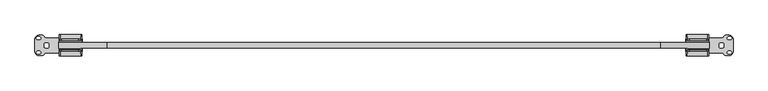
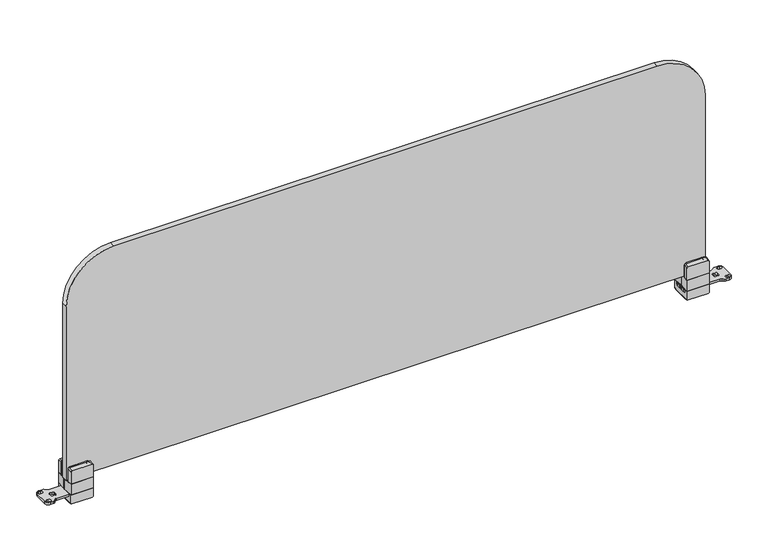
"""IFC4 building model written with IfcOpenShell, lengths in millimetres: furniture geometry, Logos Echopanel Screen : Logos Echopanel Screen."""

from ifc_helpers import new_model, si_unit, point, frame, frame_2d, origin, place, context, project, spatial, polyline, circle_curve, ellipse_curve, trimmed, segment, composite_curve, outline, extrude, faceted_brep, source, transform, mapped, element, save
from ifc_brep_helpers import plane_surface, cylinder_surface, spline_surface, advanced_brep


def furniture_cf596cc2(model_context):
    return source(origin(), model_context, "Body", "SolidModel", [
        extrude(outline(composite_curve([segment(trimmed(circle_curve(frame_2d((694.9412598, 20.2504168)), 5.0007663), [point((694.9412598, 15.2496506))], [point((698.4773355, 16.7143411))], True, "CARTESIAN"), True, "CONTINUOUS"), segment(polyline([(698.4773355, 16.7143411), (701.3432341, 19.5802397)]), True, "CONTINUOUS"), segment(trimmed(circle_curve(frame_2d((704.8336792, 15.9991147)), 5.0007663), [point((701.3432341, 19.5802397))], [point((704.8336792, 20.999881))], False, "CARTESIAN"), True, "CONTINUOUS"), segment(polyline([(704.8336792, 20.999881), (711.3379333, 20.999881)]), True, "CONTINUOUS"), segment(trimmed(circle_curve(frame_2d((711.3379333, 13.0747833)), 7.9250977), [point((711.3379333, 20.999881))], [point((719.263031, 13.0747833))], False, "CARTESIAN"), True, "CONTINUOUS"), segment(polyline([(719.263031, 13.0747833), (719.263031, -13.0747833)]), True, "CONTINUOUS"), segment(trimmed(circle_curve(frame_2d((711.3379333, -13.0747833)), 7.9250977), [point((719.263031, -13.0747833))], [point((711.3379333, -20.999881))], False, "CARTESIAN"), True, "CONTINUOUS"), segment(polyline([(711.3379333, -20.999881), (704.8336792, -20.999881)]), True, "CONTINUOUS"), segment(trimmed(circle_curve(frame_2d((704.8336792, -15.9991147)), 5.0007663), [point((704.8336792, -20.999881))], [point((701.3432341, -19.5802397))], False, "CARTESIAN"), True, "CONTINUOUS"), segment(polyline([(701.3432341, -19.5802397), (698.4773355, -16.7143411)]), True, "CONTINUOUS"), segment(trimmed(circle_curve(frame_2d((694.9412598, -20.2504168)), 5.0007663), [point((698.4773355, -16.7143411))], [point((694.9412598, -15.2496506))], True, "CARTESIAN"), True, "CONTINUOUS"), segment(polyline([(694.9412598, -15.2496506), (626.2631989, -15.2496506)]), True, "CONTINUOUS"), segment(trimmed(circle_curve(frame_2d((626.2631989, -10.2496506)), 5.0), [point((626.2631989, -15.2496506))], [point((621.2631989, -10.2496506))], False, "CARTESIAN"), True, "CONTINUOUS"), segment(polyline([(621.2631989, -10.2496506), (621.2631989, -3.5516082)]), True, "CONTINUOUS"), segment(trimmed(circle_curve(frame_2d((623.2649016, -3.5516082)), 2.0017028), [point((621.2631989, -3.5516082))], [point((623.2649016, -1.5499054))], False, "CARTESIAN"), True, "CONTINUOUS"), segment(polyline([(623.2649016, -1.5499054), (669.2625946, -1.5499054), (669.2625946, 1.5499054), (623.2649016, 1.5499054)]), True, "CONTINUOUS"), segment(trimmed(circle_curve(frame_2d((623.2649016, 3.5516082)), 2.0017028), [point((623.2649016, 1.5499054))], [point((621.2631989, 3.5516082))], False, "CARTESIAN"), True, "CONTINUOUS"), segment(polyline([(621.2631989, 3.5516082), (621.2631989, 10.2496506)]), True, "CONTINUOUS"), segment(trimmed(circle_curve(frame_2d((626.2631989, 10.2496506)), 5.0), [point((621.2631989, 10.2496506))], [point((626.2631989, 15.2496506))], False, "CARTESIAN"), True, "CONTINUOUS"), segment(polyline([(626.2631989, 15.2496506), (694.9412598, 15.2496506)]), True, "CONTINUOUS")], self_intersect=False), holes=[composite_curve([segment(trimmed(circle_curve(frame_2d((710.5124023, 14.9999565)), 3.2500923), [point((710.5124023, 18.2500488))], [point((710.5124023, 11.7498642))], True, "CARTESIAN"), True, "CONTINUOUS"), segment(polyline([(710.5124023, 11.7498642), (713.5122192, 11.7498642)]), True, "CONTINUOUS"), segment(trimmed(circle_curve(frame_2d((713.5122192, 14.9999565)), 3.2500923), [point((713.5122192, 11.7498642))], [point((713.5122192, 18.2500488))], True, "CARTESIAN"), True, "CONTINUOUS"), segment(polyline([(713.5122192, 18.2500488), (710.5124023, 18.2500488)]), True, "CONTINUOUS")], self_intersect=False), composite_curve([segment(polyline([(710.5124023, -18.2500488), (713.5122192, -18.2500488)]), True, "CONTINUOUS"), segment(trimmed(circle_curve(frame_2d((713.5122192, -14.9999565)), 3.2500923), [point((713.5122192, -18.2500488))], [point((713.5122192, -11.7498642))], True, "CARTESIAN"), True, "CONTINUOUS"), segment(polyline([(713.5122192, -11.7498642), (710.5124023, -11.7498642)]), True, "CONTINUOUS"), segment(trimmed(circle_curve(frame_2d((710.5124023, -14.9999565)), 3.2500923), [point((710.5124023, -11.7498642))], [point((710.5124023, -18.2500488))], True, "CARTESIAN"), True, "CONTINUOUS")], self_intersect=False), composite_curve([segment(polyline([(697.763028, 4.9996948), (692.7800292, 4.9996948)]), True, "CONTINUOUS"), segment(trimmed(circle_curve(frame_2d((692.7800292, 2.4821412)), 2.5175537), [point((692.7800292, 4.9996948))], [point((690.2624756, 2.4821412))], True, "CARTESIAN"), True, "CONTINUOUS"), segment(polyline([(690.2624756, 2.4821412), (690.2624756, -2.4821412)]), True, "CONTINUOUS"), segment(trimmed(circle_curve(frame_2d((692.7800292, -2.4821412)), 2.5175537), [point((690.2624756, -2.4821412))], [point((692.7800292, -4.9996948))], True, "CARTESIAN"), True, "CONTINUOUS"), segment(polyline([(692.7800292, -4.9996948), (697.763028, -4.9996948)]), True, "CONTINUOUS"), segment(trimmed(circle_curve(frame_2d((697.763028, -2.4996948)), 2.5), [point((697.763028, -4.9996948))], [point((700.263028, -2.4996948))], True, "CARTESIAN"), True, "CONTINUOUS"), segment(polyline([(700.263028, -2.4996948), (700.263028, 2.4996948)]), True, "CONTINUOUS"), segment(trimmed(circle_curve(frame_2d((697.763028, 2.4996948)), 2.5), [point((700.263028, 2.4996948))], [point((697.763028, 4.9996948))], True, "CARTESIAN"), True, "CONTINUOUS")], self_intersect=False)]), frame((0.0, 0.0, 15.0000292), z_axis=(0.0, 0.0, 1.0), x_axis=(1.0, 0.0, 0.0)), (0.0, 0.0, 1.0), 4.9999855),
        extrude(outline(composite_curve([segment(polyline([(68.5024686, 627.7267578), (45.4999844, 627.7267578), (45.4999844, 644.0269257), (72.5000078, 644.0269257), (72.5000078, 631.724297)]), True, "CONTINUOUS"), segment(trimmed(circle_curve(frame_2d((68.5024686, 631.724297)), 3.9975392), [point((72.5000078, 631.724297))], [point((68.5024686, 627.7267578))], False, "CARTESIAN"), True, "CONTINUOUS")], self_intersect=False)), frame((0.0, -9.7499863, 0.0), z_axis=(0.0, 1.0, 0.0), x_axis=(0.0, 0.0, 1.0)), (0.0, 0.0, 1.0), 6.0002151),
        extrude(outline(composite_curve([segment(polyline([(45.4999844, 648.3272446), (45.4999844, 664.6268311), (68.4931361, 664.6268311)]), True, "CONTINUOUS"), segment(trimmed(circle_curve(frame_2d((68.4931361, 660.6199594)), 4.0068717), [point((68.4931361, 664.6268311))], [point((72.5000078, 660.6199594))], False, "CARTESIAN"), True, "CONTINUOUS"), segment(polyline([(72.5000078, 660.6199594), (72.5000078, 648.3272446), (45.4999844, 648.3272446)]), True, "CONTINUOUS")], self_intersect=False)), frame((0.0, -9.7499863, 0.0), z_axis=(0.0, 1.0, 0.0), x_axis=(0.0, 0.0, 1.0)), (0.0, 0.0, 1.0), 6.0002151),
        extrude(outline(composite_curve([segment(polyline([(71.4999962, 624.4269592), (45.4999844, 624.4269592), (45.4999844, 667.927211), (71.4999962, 667.927211)]), True, "CONTINUOUS"), segment(trimmed(circle_curve(frame_2d((71.4999962, 663.9272371)), 3.9999739), [point((71.4999962, 667.927211))], [point((75.4999701, 663.9272371))], False, "CARTESIAN"), True, "CONTINUOUS"), segment(polyline([(75.4999701, 663.9272371), (75.4999701, 628.4269331)]), True, "CONTINUOUS"), segment(trimmed(circle_curve(frame_2d((71.4999962, 628.4269331)), 3.9999739), [point((75.4999701, 628.4269331))], [point((71.4999962, 624.4269592))], False, "CARTESIAN"), True, "CONTINUOUS")], self_intersect=False)), frame((0.0, 9.7499863, 0.0), z_axis=(0.0, 1.0, 0.0), x_axis=(0.0, 0.0, 1.0)), (0.0, 0.0, 1.0), 2.9998169),
        faceted_brep([(622.2501428, -22.0004013, 45.4999844), (668.7502114, -22.0004013, 45.4999844), (669.4270769, -12.7503845, 45.4999844), (622.9270082, -12.7503845, 45.4999844), (623.7502563, -1.4999084, 44.4999727), (670.250325, -1.4999084, 44.4999727), (670.250325, -1.4999084, 22.4999511), (623.7502563, -1.4999084, 22.4999511), (622.2501428, -22.0004013, 21.7407766), (622.9270082, -12.7503845, 45.0000149), (668.7502114, -22.0004013, 21.7407766), (669.4270769, -12.7503845, 45.0000149)], [[[0, 1, 2, 3]], [[4, 5, 6, 7]], [[8, 0, 3, 9, 4, 7]], [[1, 0, 8, 10]], [[1, 10, 6, 5, 11, 2]], [[9, 11, 5, 4]], [[11, 9, 3, 2]], [[7, 6, 10, 8]]]),
        faceted_brep([(668.7502889, 22.0004013, 45.4999844), (622.2502203, 22.0004013, 45.4999844), (622.9270508, 12.7503845, 45.4999844), (669.4271194, 12.7503845, 45.4999844), (668.7502889, 22.0004013, 21.7407766), (669.4271194, 12.7503845, 45.0000149), (670.250325, 1.4999084, 44.4999727), (670.250325, 1.4999084, 22.4999511), (622.2502203, 22.0004013, 21.7407766), (623.7502563, 1.4999084, 22.4999511), (623.7502563, 1.4999084, 44.4999727), (622.9270508, 12.7503845, 45.0000149)], [[[0, 1, 2, 3]], [[4, 0, 3, 5, 6, 7]], [[1, 0, 4, 8]], [[1, 8, 9, 10, 11, 2]], [[6, 10, 9, 7]], [[11, 5, 3, 2]], [[5, 11, 10, 6]], [[4, 7, 9, 8]]]),
        extrude(outline(composite_curve([segment(polyline([(71.4999962, 624.4269592), (45.4999844, 624.4269592), (45.4999844, 667.927211), (71.4999962, 667.927211)]), True, "CONTINUOUS"), segment(trimmed(circle_curve(frame_2d((71.4999962, 663.9272371)), 3.9999739), [point((71.4999962, 667.927211))], [point((75.4999701, 663.9272371))], False, "CARTESIAN"), True, "CONTINUOUS"), segment(polyline([(75.4999701, 663.9272371), (75.4999701, 628.4269331)]), True, "CONTINUOUS"), segment(trimmed(circle_curve(frame_2d((71.4999962, 628.4269331)), 3.9999739), [point((75.4999701, 628.4269331))], [point((71.4999962, 624.4269592))], False, "CARTESIAN"), True, "CONTINUOUS")], self_intersect=False)), frame((0.0, -12.7498032, 0.0), z_axis=(0.0, 1.0, 0.0), x_axis=(0.0, 0.0, 1.0)), (0.0, 0.0, 1.0), 2.9998169),
        advanced_brep(
        [(666.8031057, -22.0004013, 74.5681955), (624.2886119, -22.0004013, 74.5681955), (622.2886119, -22.0004013, 72.5681955), (622.2886119, -22.0004013, 45.4999844), (668.7835357, -22.0004013, 45.4999844), (668.7835357, -22.0004013, 72.5877655), (667.4434949, -12.7503845, 76.0000182), (669.4271194, -12.7503845, 74.0163937), (669.4271194, -12.7503845, 45.4999844), (622.9270508, -12.7503845, 45.4999844), (622.9270508, -12.7503845, 74.0287389), (624.8983301, -12.7503845, 76.0000182)],
        [
            (0, 1),
            (1, 2, circle_curve(frame((624.2886119, -22.0004013, 72.5681955), z_axis=(0.0, -1.0, 0.0), x_axis=(0.0, 0.0, -1.0)), 2.0)),
            (2, 3),
            (3, 4),
            (4, 5),
            (5, 0, circle_curve(frame((666.8031057, -22.0004013, 72.5877655), z_axis=(0.0, -1.0, 0.0), x_axis=(0.0, 0.0, -1.0)), 1.98043)),
            (6, 7, circle_curve(frame((667.4434949, -12.7503845, 74.0163937), z_axis=(0.0, 1.0, 0.0), x_axis=(0.0, 0.0, -1.0)), 1.9836245)),
            (7, 8),
            (8, 9),
            (9, 10),
            (10, 11, circle_curve(frame((624.8983301, -12.7503845, 74.0287389), z_axis=(0.0, 1.0, 0.0), x_axis=(0.0, 0.0, -1.0)), 1.9712793)),
            (11, 6),
            (6, 0),
            (5, 7),
            (4, 8),
            (3, 9),
            (2, 10),
            (1, 11),
        ],
        [
            plane_surface(frame((645.5393355, -22.0004013, 64.2153868), z_axis=(0.0, -1.0, 0.0), x_axis=(-1.0, 0.0, 0.0))),
            plane_surface(frame((646.1750276, -12.7503845, 65.1741896), z_axis=(0.0, 1.0, 0.0), x_axis=(-1.0, 0.0, 0.0))),
            spline_surface(2, 1, [[(669.4271194, -12.7503845, 74.0163937), (668.7835357, -22.0004013, 72.5877655)], [(669.4271194, -12.7503845, 76.00001820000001), (668.7835357, -22.0004013, 74.56819550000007)], [(667.4434949, -12.7503845, 76.0000182), (666.8031057, -22.0004013, 74.5681955)]], [3, 3], [2, 2], [0.0, 1.0], [0.0, 1.0], weights=[[1.0, 1.0], [0.707106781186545, 0.707106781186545], [1.0, 1.0]]),
            plane_surface(frame((669.4271194, -12.7503845, 59.758189), z_axis=(0.9975883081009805, -0.06940869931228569, 0.0), x_axis=(0.0, 0.0, 1.0))),
            plane_surface(frame((646.1770851, -12.7503845, 45.4999844), z_axis=(0.0, 0.0, -1.0), x_axis=(1.0, 0.0, 0.0))),
            plane_surface(frame((622.9270508, -12.7503845, 59.7643616), z_axis=(-0.9976265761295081, 0.06885647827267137, 0.0), x_axis=(0.0, 0.0, -1.0))),
            spline_surface(2, 1, [[(624.8983301, -12.7503845, 76.0000182), (624.2886119, -22.0004013, 74.5681955)], [(622.9270508, -12.7503845, 76.0000182), (622.2886119, -22.0004013, 74.5681955)], [(622.9270508, -12.7503845, 74.0287389), (622.2886119, -22.0004013, 72.5681955)]], [3, 3], [2, 2], [0.0, 1.0], [0.0, 1.0], weights=[[1.0, 1.0], [0.7071067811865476, 0.7071067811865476], [1.0, 1.0]]),
            plane_surface(frame((646.1709125, -12.7503845, 76.0000182), z_axis=(0.0, -0.15296960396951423, 0.9882308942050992), x_axis=(-1.0, 0.0, 0.0))),
        ],
        [
            (0, [[1, 2, 3, 4, 5, 6]]),
            (1, [[7, 8, 9, 10, 11, 12]]),
            (2, [[-7, 13, -6, 14]]),
            (3, [[-8, -14, -5, 15]]),
            (4, [[-9, -15, -4, 16]]),
            (5, [[-10, -16, -3, 17]]),
            (6, [[-11, -17, -2, 18]]),
            (7, [[-12, -18, -1, -13]]),
        ],
    ),
        advanced_brep(
        [(666.8031057, 22.0004013, 74.5681955), (668.7835357, 22.0004013, 72.5877655), (668.7835357, 22.0004013, 45.4999844), (622.2886119, 22.0004013, 45.4999844), (622.2886119, 22.0004013, 72.5681955), (624.2886119, 22.0004013, 74.5681955), (667.4434949, 12.7503845, 76.0000182), (624.8983301, 12.7503845, 76.0000182), (622.9270508, 12.7503845, 74.0287389), (622.9270508, 12.7503845, 45.4999844), (669.4271194, 12.7503845, 45.4999844), (669.4271194, 12.7503845, 74.0163937)],
        [
            (0, 1, circle_curve(frame((666.8031057, 22.0004013, 72.5877655), z_axis=(0.0, 1.0, 0.0), x_axis=(0.0, 0.0, 1.0)), 1.98043)),
            (1, 2),
            (2, 3),
            (3, 4),
            (4, 5, circle_curve(frame((624.2886119, 22.0004013, 72.5681955), z_axis=(0.0, 1.0, 0.0), x_axis=(0.0, 0.0, 1.0)), 2.0)),
            (5, 0),
            (6, 7),
            (7, 8, circle_curve(frame((624.8983301, 12.7503845, 74.0287389), z_axis=(0.0, -1.0, 0.0), x_axis=(0.0, 0.0, 1.0)), 1.9712793)),
            (8, 9),
            (9, 10),
            (10, 11),
            (11, 6, circle_curve(frame((667.4434949, 12.7503845, 74.0163937), z_axis=(0.0, -1.0, 0.0), x_axis=(0.0, 0.0, 1.0)), 1.9836245)),
            (11, 1),
            (0, 6),
            (10, 2),
            (9, 3),
            (8, 4),
            (7, 5),
        ],
        [
            plane_surface(frame((645.5393355, 22.0004013, 64.2153868), z_axis=(0.0, 1.0, 0.0), x_axis=(1.0, 0.0, 0.0))),
            plane_surface(frame((646.1750276, 12.7503845, 65.1741896), z_axis=(0.0, -1.0, 0.0), x_axis=(1.0, 0.0, 0.0))),
            spline_surface(2, 1, [[(667.4434949, 12.7503845, 76.0000182), (666.8031057, 22.0004013, 74.5681955)], [(669.4271194, 12.7503845, 76.00001819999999), (668.7835356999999, 22.0004013, 74.56819549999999)], [(669.4271194, 12.7503845, 74.0163937), (668.7835357, 22.0004013, 72.5877655)]], [3, 3], [2, 2], [0.0, 1.0], [0.0, 1.0], weights=[[1.0, 1.0], [0.70710678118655, 0.70710678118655], [1.0, 1.0]]),
            plane_surface(frame((669.4271194, 12.7503845, 59.758189), z_axis=(0.9975883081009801, 0.06940869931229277, 0.0), x_axis=(0.0, 0.0, -1.0))),
            plane_surface(frame((646.1770851, 12.7503845, 45.4999844), z_axis=(0.0, 0.0, -1.0), x_axis=(-1.0, 0.0, 0.0))),
            plane_surface(frame((622.9270508, 12.7503845, 59.7643616), z_axis=(-0.9976265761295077, -0.06885647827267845, 0.0), x_axis=(0.0, 0.0, 1.0))),
            spline_surface(2, 1, [[(622.9270508, 12.7503845, 74.0287389), (622.2886119, 22.0004013, 72.5681955)], [(622.9270508, 12.7503845, 76.00001819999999), (622.2886119, 22.0004013, 74.5681955)], [(624.8983301, 12.7503845, 76.0000182), (624.2886119, 22.0004013, 74.5681955)]], [3, 3], [2, 2], [0.0, 1.0], [0.0, 1.0], weights=[[1.0, 1.0], [0.7071067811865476, 0.7071067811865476], [1.0, 1.0]]),
            plane_surface(frame((646.1709125, 12.7503845, 76.0000182), z_axis=(0.0, 0.15296960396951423, 0.9882308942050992), x_axis=(1.0, 0.0, 0.0))),
        ],
        [
            (0, [[1, 2, 3, 4, 5, 6]]),
            (1, [[7, 8, 9, 10, 11, 12]]),
            (2, [[-12, 13, -1, 14]]),
            (3, [[-11, 15, -2, -13]]),
            (4, [[-10, 16, -3, -15]]),
            (5, [[-9, 17, -4, -16]]),
            (6, [[-8, 18, -5, -17]]),
            (7, [[-7, -14, -6, -18]]),
        ],
    ),
        advanced_brep(
        [(669.2625946, 22.0004013, 3.545506), (669.2625946, 22.0004013, 21.7408082), (669.2625946, 1.4999084, 21.7407766), (669.2625946, -0.013302, 21.7407766), (669.2625946, -1.4999084, 21.7407766), (669.2625946, -22.0004013, 21.7407766), (669.2625946, -22.0004013, 3.545506), (669.2625946, -14.7883574, 2.0), (669.2625946, 14.7883574, 2.0), (669.2625946, 1.4999084, 20.0000147), (669.2625946, 15.0002472, 20.0000147), (669.2625946, 15.0002472, 15.0000292), (669.2625946, 1.4999084, 15.0000292), (669.2625946, -1.4999084, 20.0000147), (669.2625946, -1.4999084, 15.0000292), (669.2625946, -15.0002472, 15.0000292), (669.2625946, -15.0002472, 20.0000147), (622.2881553, -22.0004013, 3.545506), (622.2881553, -22.0004013, 21.7407766), (622.2881553, -1.4999084, 21.7407766), (622.2881553, -0.013302, 21.7407766), (622.2881553, 1.4999084, 21.7407766), (622.2881553, 22.0004013, 21.7407766), (622.2881553, 22.0004013, 3.545506), (622.2881553, 14.7883574, 2.0), (622.2881553, -14.7883574, 2.0), (622.2881553, 1.4999084, 20.0000147), (622.2881553, 1.4999084, 15.0000292), (622.2881553, 15.0002472, 15.0000292), (622.2881553, 15.0002472, 20.0000147), (622.2881553, -1.4999084, 20.0000147), (622.2881553, -15.0002472, 20.0000147), (622.2881553, -15.0002472, 15.0000292), (622.2881553, -1.4999084, 15.0000292), (624.2881553, -22.0004013, 1.500099), (667.2625946, -22.0004013, 1.500099), (624.2881553, -15.0002472, 0.0), (667.2625946, -15.0002472, 0.0), (624.2881553, 15.0002472, 0.0), (667.2625946, 15.0002472, 0.0), (624.2881553, 22.0004013, 1.500099), (667.2625946, 22.0004013, 1.500099)],
        [
            (0, 1),
            (1, 2),
            (2, 3),
            (3, 4),
            (4, 5),
            (5, 6),
            (6, 7),
            (7, 8),
            (8, 0),
            (9, 10),
            (10, 11),
            (11, 12),
            (12, 9),
            (13, 14),
            (14, 15),
            (15, 16),
            (16, 13),
            (17, 18),
            (18, 19),
            (19, 20),
            (20, 21),
            (21, 22),
            (22, 23),
            (23, 24),
            (24, 25),
            (25, 17),
            (26, 27),
            (27, 28),
            (28, 29),
            (29, 26),
            (30, 31),
            (31, 32),
            (32, 33),
            (33, 30),
            (17, 34, ellipse_curve(frame((624.2881553, -22.0004013, 3.545506), z_axis=(0.0, -1.0, 0.0), x_axis=(0.0, 0.0, 1.0)), 2.045407, 2.0)),
            (34, 35),
            (35, 6, ellipse_curve(frame((667.2625946, -22.0004013, 3.545506), z_axis=(0.0, -1.0, 0.0), x_axis=(0.0, 0.0, -1.0)), 2.045407, 2.0)),
            (5, 18),
            (34, 36),
            (36, 37),
            (37, 35),
            (36, 38),
            (38, 39),
            (39, 37),
            (38, 40),
            (40, 41),
            (41, 39),
            (22, 1),
            (0, 41, ellipse_curve(frame((667.2625946, 22.0004013, 3.545506), z_axis=(0.0, 1.0, 0.0), x_axis=(0.0, 0.0, 1.0)), 2.045407, 2.0)),
            (40, 23, ellipse_curve(frame((624.2881553, 22.0004013, 3.545506), z_axis=(0.0, 1.0, 0.0), x_axis=(0.0, 0.0, -1.0)), 2.045407, 2.0)),
            (9, 26),
            (29, 10),
            (28, 11),
            (27, 12),
            (13, 30),
            (33, 14),
            (32, 15),
            (31, 16),
            (38, 24, ellipse_curve(frame((624.2881553, 14.7883574, 2.0), z_axis=(0.0, 0.9944346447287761, 0.10535529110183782), x_axis=(0.0, 0.10535529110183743, -0.994434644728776)), 2.011193, 2.0)),
            (36, 25, ellipse_curve(frame((624.2881553, -14.7883574, 2.0), z_axis=(0.0, 0.9944346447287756, -0.10535529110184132), x_axis=(0.0, -0.10535529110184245, -0.9944346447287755)), 2.011193, 2.0)),
            (37, 7, ellipse_curve(frame((667.2625946, -14.7883574, 2.0), z_axis=(0.0, -0.9944346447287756, 0.10535529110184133), x_axis=(0.0, -0.10535529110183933, -0.9944346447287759)), 2.011193, 2.0)),
            (39, 8, ellipse_curve(frame((667.2625946, 14.7883574, 2.0), z_axis=(0.0, -0.9944346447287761, -0.10535529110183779), x_axis=(0.0, 0.10535529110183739, -0.994434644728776)), 2.011193, 2.0)),
            (4, 19),
            (3, 20),
            (2, 21),
        ],
        [
            plane_surface(frame((669.2625946, 22.0004013, 72.4767534), z_axis=(1.0, 0.0, 0.0), x_axis=(0.0, 0.0, 1.0))),
            plane_surface(frame((622.2881553, 22.0004013, 72.4767534), z_axis=(-1.0, 0.0, 0.0), x_axis=(0.0, 0.0, -1.0))),
            plane_surface(frame((669.2625946, -22.0004013, 21.7407766), z_axis=(0.0, -1.0, 0.0), x_axis=(-1.0, 0.0, 0.0))),
            plane_surface(frame((669.2625946, -22.0004013, 1.500099), z_axis=(0.0, -0.20953790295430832, -0.9778005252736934), x_axis=(-1.0, 0.0, 0.0))),
            plane_surface(frame((669.2625946, -15.0002472, 0.0), z_axis=(0.0, 0.0, -1.0), x_axis=(-1.0, 0.0, 0.0))),
            plane_surface(frame((669.2625946, 15.0002472, 0.0), z_axis=(0.0, 0.20953790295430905, -0.9778005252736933), x_axis=(-1.0, 0.0, 0.0))),
            plane_surface(frame((669.2625946, 22.0004013, 1.500099), z_axis=(0.0, 1.0, 0.0), x_axis=(-1.0, 0.0, 0.0))),
            plane_surface(frame((669.2625946, 1.4999084, 20.0000147), z_axis=(0.0, 0.0, -1.0), x_axis=(-1.0, 0.0, 0.0))),
            plane_surface(frame((669.2625946, 15.0002472, 20.0000147), z_axis=(0.0, -1.0, 0.0), x_axis=(-1.0, 0.0, 0.0))),
            plane_surface(frame((669.2625946, 15.0002472, 15.0000292), z_axis=(0.0, 0.0, 1.0), x_axis=(-1.0, 0.0, 0.0))),
            plane_surface(frame((669.2625946, 1.4999084, 15.0000292), z_axis=(0.0, 1.0, 0.0), x_axis=(-1.0, 0.0, 0.0))),
            plane_surface(frame((669.2625946, -1.4999084, 20.0000147), z_axis=(0.0, -1.0, 0.0), x_axis=(-1.0, 0.0, 0.0))),
            plane_surface(frame((669.2625946, -1.4999084, 15.0000292), z_axis=(0.0, 0.0, 1.0), x_axis=(-1.0, 0.0, 0.0))),
            plane_surface(frame((669.2625946, -15.0002472, 15.0000292), z_axis=(0.0, 1.0, 0.0), x_axis=(-1.0, 0.0, 0.0))),
            plane_surface(frame((669.2625946, -15.0002472, 20.0000147), z_axis=(0.0, 0.0, -1.0), x_axis=(-1.0, 0.0, 0.0))),
            cylinder_surface(frame((624.2881553, 22.3258287, 3.6152435), z_axis=(0.0, -0.9778005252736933, -0.20953790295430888), x_axis=(-1.0, 0.0, 0.0)), 2.0),
            cylinder_surface(frame((624.2881553, 15.0002472, 2.0), z_axis=(0.0, -1.0, 0.0), x_axis=(-1.0, 0.0, 0.0)), 2.0),
            cylinder_surface(frame((624.2881553, -14.5811714, 1.9556011), z_axis=(0.0, -0.9778005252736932, 0.20953790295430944), x_axis=(-1.0, 0.0, 0.0)), 2.0),
            cylinder_surface(frame((667.2625946, -25.1492778, 4.2202949), z_axis=(0.0, 0.9778005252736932, -0.20953790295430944), x_axis=(1.0, 0.0, 0.0)), 2.0),
            cylinder_surface(frame((667.2625946, -15.0002472, 2.0), z_axis=(0.0, 1.0, 0.0), x_axis=(1.0, 0.0, 0.0)), 2.0),
            cylinder_surface(frame((667.2625946, 14.5811714, 1.9556011), z_axis=(0.0, 0.9778005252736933, 0.20953790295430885), x_axis=(1.0, 0.0, 0.0)), 2.0),
            plane_surface(frame((670.7850509, -22.0004013, 21.7407766), z_axis=(0.0, 0.0, 1.0), x_axis=(-1.0, 0.0, 0.0))),
            plane_surface(frame((670.7850509, -1.4999084, 21.7407766), z_axis=(0.0, 0.0, 1.0), x_axis=(-1.0, 0.0, 0.0))),
            plane_surface(frame((670.7850509, -0.013302, 21.7407766), z_axis=(0.0, 0.0, 1.0), x_axis=(-1.0, 0.0, 0.0))),
            plane_surface(frame((670.7850509, 1.4999084, 21.7407766), z_axis=(0.0, 0.0, 1.0), x_axis=(-1.0, 0.0, 0.0))),
        ],
        [
            (0, [[1, 2, 3, 4, 5, 6, 7, 8, 9], [10, 11, 12, 13], [14, 15, 16, 17]]),
            (1, [[18, 19, 20, 21, 22, 23, 24, 25, 26], [27, 28, 29, 30], [31, 32, 33, 34]]),
            (2, [[-18, 35, 36, 37, -6, 38]]),
            (3, [[39, 40, 41, -36]]),
            (4, [[42, 43, 44, -40]]),
            (5, [[45, 46, 47, -43]]),
            (6, [[-23, 48, -1, 49, -46, 50]]),
            (7, [[-10, 51, -30, 52]]),
            (8, [[-11, -52, -29, 53]]),
            (9, [[-12, -53, -28, 54]]),
            (10, [[-13, -54, -27, -51]]),
            (11, [[-14, 55, -34, 56]]),
            (12, [[-15, -56, -33, 57]]),
            (13, [[-16, -57, -32, 58]]),
            (14, [[-17, -58, -31, -55]]),
            (15, [[59, -24, -50, -45]]),
            (16, [[-59, -42, 60, -25]]),
            (17, [[-60, -39, -35, -26]]),
            (18, [[61, -7, -37, -41]]),
            (19, [[-61, -44, 62, -8]]),
            (20, [[-62, -47, -49, -9]]),
            (21, [[63, -19, -38, -5]]),
            (22, [[-63, -4, 64, -20]]),
            (23, [[-64, -3, 65, -21]]),
            (24, [[-65, -2, -48, -22]]),
        ],
    ),
        extrude(outline(composite_curve([segment(polyline([(-694.9412598, 15.2496506), (-626.2631989, 15.2496506)]), True, "CONTINUOUS"), segment(trimmed(circle_curve(frame_2d((-626.2631989, 10.2496506)), 5.0), [point((-626.2631989, 15.2496506))], [point((-621.2631989, 10.2496506))], False, "CARTESIAN"), True, "CONTINUOUS"), segment(polyline([(-621.2631989, 10.2496506), (-621.2631989, 3.5516082)]), True, "CONTINUOUS"), segment(trimmed(circle_curve(frame_2d((-623.2649016, 3.5516082)), 2.0017028), [point((-621.2631989, 3.5516082))], [point((-623.2649016, 1.5499054))], False, "CARTESIAN"), True, "CONTINUOUS"), segment(polyline([(-623.2649016, 1.5499054), (-669.2625946, 1.5499054), (-669.2625946, -1.5499054), (-623.2649016, -1.5499054)]), True, "CONTINUOUS"), segment(trimmed(circle_curve(frame_2d((-623.2649016, -3.5516082)), 2.0017028), [point((-623.2649016, -1.5499054))], [point((-621.2631989, -3.5516082))], False, "CARTESIAN"), True, "CONTINUOUS"), segment(polyline([(-621.2631989, -3.5516082), (-621.2631989, -10.2496506)]), True, "CONTINUOUS"), segment(trimmed(circle_curve(frame_2d((-626.2631989, -10.2496506)), 5.0), [point((-621.2631989, -10.2496506))], [point((-626.2631989, -15.2496506))], False, "CARTESIAN"), True, "CONTINUOUS"), segment(polyline([(-626.2631989, -15.2496506), (-694.9412598, -15.2496506)]), True, "CONTINUOUS"), segment(trimmed(circle_curve(frame_2d((-694.9412598, -20.2504168)), 5.0007663), [point((-694.9412598, -15.2496506))], [point((-698.4773355, -16.7143411))], True, "CARTESIAN"), True, "CONTINUOUS"), segment(polyline([(-698.4773355, -16.7143411), (-701.3432341, -19.5802397)]), True, "CONTINUOUS"), segment(trimmed(circle_curve(frame_2d((-704.8336792, -15.9991147)), 5.0007663), [point((-701.3432341, -19.5802397))], [point((-704.8336792, -20.999881))], False, "CARTESIAN"), True, "CONTINUOUS"), segment(polyline([(-704.8336792, -20.999881), (-711.3379333, -20.999881)]), True, "CONTINUOUS"), segment(trimmed(circle_curve(frame_2d((-711.3379333, -13.0747833)), 7.9250977), [point((-711.3379333, -20.999881))], [point((-719.263031, -13.0747833))], False, "CARTESIAN"), True, "CONTINUOUS"), segment(polyline([(-719.263031, -13.0747833), (-719.263031, 13.0747833)]), True, "CONTINUOUS"), segment(trimmed(circle_curve(frame_2d((-711.3379333, 13.0747833)), 7.9250977), [point((-719.263031, 13.0747833))], [point((-711.3379333, 20.999881))], False, "CARTESIAN"), True, "CONTINUOUS"), segment(polyline([(-711.3379333, 20.999881), (-704.8336792, 20.999881)]), True, "CONTINUOUS"), segment(trimmed(circle_curve(frame_2d((-704.8336792, 15.9991147)), 5.0007663), [point((-704.8336792, 20.999881))], [point((-701.3432341, 19.5802397))], False, "CARTESIAN"), True, "CONTINUOUS"), segment(polyline([(-701.3432341, 19.5802397), (-698.4773355, 16.7143411)]), True, "CONTINUOUS"), segment(trimmed(circle_curve(frame_2d((-694.9412598, 20.2504168)), 5.0007663), [point((-698.4773355, 16.7143411))], [point((-694.9412598, 15.2496506))], True, "CARTESIAN"), True, "CONTINUOUS")], self_intersect=False), holes=[composite_curve([segment(polyline([(-710.5124023, 18.2500488), (-713.5122192, 18.2500488)]), True, "CONTINUOUS"), segment(trimmed(circle_curve(frame_2d((-713.5122192, 14.9999565)), 3.2500923), [point((-713.5122192, 18.2500488))], [point((-713.5122192, 11.7498642))], True, "CARTESIAN"), True, "CONTINUOUS"), segment(polyline([(-713.5122192, 11.7498642), (-710.5124023, 11.7498642)]), True, "CONTINUOUS"), segment(trimmed(circle_curve(frame_2d((-710.5124023, 14.9999565)), 3.2500923), [point((-710.5124023, 11.7498642))], [point((-710.5124023, 18.2500488))], True, "CARTESIAN"), True, "CONTINUOUS")], self_intersect=False), composite_curve([segment(trimmed(circle_curve(frame_2d((-710.5124023, -14.9999565)), 3.2500923), [point((-710.5124023, -18.2500488))], [point((-710.5124023, -11.7498642))], True, "CARTESIAN"), True, "CONTINUOUS"), segment(polyline([(-710.5124023, -11.7498642), (-713.5122192, -11.7498642)]), True, "CONTINUOUS"), segment(trimmed(circle_curve(frame_2d((-713.5122192, -14.9999565)), 3.2500923), [point((-713.5122192, -11.7498642))], [point((-713.5122192, -18.2500488))], True, "CARTESIAN"), True, "CONTINUOUS"), segment(polyline([(-713.5122192, -18.2500488), (-710.5124023, -18.2500488)]), True, "CONTINUOUS")], self_intersect=False), composite_curve([segment(trimmed(circle_curve(frame_2d((-697.763028, 2.4996948)), 2.5), [point((-697.763028, 4.9996948))], [point((-700.263028, 2.4996948))], True, "CARTESIAN"), True, "CONTINUOUS"), segment(polyline([(-700.263028, 2.4996948), (-700.263028, -2.4996948)]), True, "CONTINUOUS"), segment(trimmed(circle_curve(frame_2d((-697.763028, -2.4996948)), 2.5), [point((-700.263028, -2.4996948))], [point((-697.763028, -4.9996948))], True, "CARTESIAN"), True, "CONTINUOUS"), segment(polyline([(-697.763028, -4.9996948), (-692.7800292, -4.9996948)]), True, "CONTINUOUS"), segment(trimmed(circle_curve(frame_2d((-692.7800292, -2.4821412)), 2.5175537), [point((-692.7800292, -4.9996948))], [point((-690.2624756, -2.4821412))], True, "CARTESIAN"), True, "CONTINUOUS"), segment(polyline([(-690.2624756, -2.4821412), (-690.2624756, 2.4821412)]), True, "CONTINUOUS"), segment(trimmed(circle_curve(frame_2d((-692.7800292, 2.4821412)), 2.5175537), [point((-690.2624756, 2.4821412))], [point((-692.7800292, 4.9996948))], True, "CARTESIAN"), True, "CONTINUOUS"), segment(polyline([(-692.7800292, 4.9996948), (-697.763028, 4.9996948)]), True, "CONTINUOUS")], self_intersect=False)]), frame((0.0, 0.0, 15.0000292), z_axis=(0.0, 0.0, 1.0), x_axis=(1.0, 0.0, 0.0)), (0.0, 0.0, 1.0), 4.9999855),
        extrude(outline(composite_curve([segment(trimmed(circle_curve(frame_2d((68.5024686, -631.724297)), 3.9975392), [point((68.5024686, -627.7267578))], [point((72.5000078, -631.724297))], False, "CARTESIAN"), True, "CONTINUOUS"), segment(polyline([(72.5000078, -631.724297), (72.5000078, -644.0269257), (45.4999844, -644.0269257), (45.4999844, -627.7267578), (68.5024686, -627.7267578)]), True, "CONTINUOUS")], self_intersect=False)), frame((0.0, -9.7499863, 0.0), z_axis=(0.0, 1.0, 0.0), x_axis=(0.0, 0.0, 1.0)), (0.0, 0.0, 1.0), 6.0002151),
        extrude(outline(composite_curve([segment(polyline([(45.4999844, -648.3272446), (72.5000078, -648.3272446), (72.5000078, -660.6199594)]), True, "CONTINUOUS"), segment(trimmed(circle_curve(frame_2d((68.4931361, -660.6199594)), 4.0068717), [point((72.5000078, -660.6199594))], [point((68.4931361, -664.6268311))], False, "CARTESIAN"), True, "CONTINUOUS"), segment(polyline([(68.4931361, -664.6268311), (45.4999844, -664.6268311), (45.4999844, -648.3272446)]), True, "CONTINUOUS")], self_intersect=False)), frame((0.0, -9.7499863, 0.0), z_axis=(0.0, 1.0, 0.0), x_axis=(0.0, 0.0, 1.0)), (0.0, 0.0, 1.0), 6.0002151),
        extrude(outline(composite_curve([segment(trimmed(circle_curve(frame_2d((71.4999962, -628.4269331)), 3.9999739), [point((71.4999962, -624.4269592))], [point((75.4999701, -628.4269331))], False, "CARTESIAN"), True, "CONTINUOUS"), segment(polyline([(75.4999701, -628.4269331), (75.4999701, -663.9272371)]), True, "CONTINUOUS"), segment(trimmed(circle_curve(frame_2d((71.4999962, -663.9272371)), 3.9999739), [point((75.4999701, -663.9272371))], [point((71.4999962, -667.927211))], False, "CARTESIAN"), True, "CONTINUOUS"), segment(polyline([(71.4999962, -667.927211), (45.4999844, -667.927211), (45.4999844, -624.4269592), (71.4999962, -624.4269592)]), True, "CONTINUOUS")], self_intersect=False)), frame((0.0, 9.7499863, 0.0), z_axis=(0.0, 1.0, 0.0), x_axis=(0.0, 0.0, 1.0)), (0.0, 0.0, 1.0), 2.9998169),
        faceted_brep([(-622.2501428, -22.0004013, 45.4999844), (-622.9270082, -12.7503845, 45.4999844), (-669.4270769, -12.7503845, 45.4999844), (-668.7502114, -22.0004013, 45.4999844), (-623.7502563, -1.4999084, 44.4999727), (-623.7502563, -1.4999084, 22.4999511), (-670.250325, -1.4999084, 22.4999511), (-670.250325, -1.4999084, 44.4999727), (-622.2501428, -22.0004013, 21.7407766), (-622.9270082, -12.7503845, 45.0000149), (-668.7502114, -22.0004013, 21.7407766), (-669.4270769, -12.7503845, 45.0000149)], [[[0, 1, 2, 3]], [[4, 5, 6, 7]], [[8, 5, 4, 9, 1, 0]], [[3, 10, 8, 0]], [[3, 2, 11, 7, 6, 10]], [[9, 4, 7, 11]], [[11, 2, 1, 9]], [[5, 8, 10, 6]]]),
        faceted_brep([(-668.7502889, 22.0004013, 45.4999844), (-669.4271194, 12.7503845, 45.4999844), (-622.9270508, 12.7503845, 45.4999844), (-622.2502203, 22.0004013, 45.4999844), (-668.7502889, 22.0004013, 21.7407766), (-670.250325, 1.4999084, 22.4999511), (-670.250325, 1.4999084, 44.4999727), (-669.4271194, 12.7503845, 45.0000149), (-622.2502203, 22.0004013, 21.7407766), (-622.9270508, 12.7503845, 45.0000149), (-623.7502563, 1.4999084, 44.4999727), (-623.7502563, 1.4999084, 22.4999511)], [[[0, 1, 2, 3]], [[4, 5, 6, 7, 1, 0]], [[3, 8, 4, 0]], [[3, 2, 9, 10, 11, 8]], [[6, 5, 11, 10]], [[9, 2, 1, 7]], [[7, 6, 10, 9]], [[4, 8, 11, 5]]]),
        extrude(outline(composite_curve([segment(trimmed(circle_curve(frame_2d((71.4999962, -628.4269331)), 3.9999739), [point((71.4999962, -624.4269592))], [point((75.4999701, -628.4269331))], False, "CARTESIAN"), True, "CONTINUOUS"), segment(polyline([(75.4999701, -628.4269331), (75.4999701, -663.9272371)]), True, "CONTINUOUS"), segment(trimmed(circle_curve(frame_2d((71.4999962, -663.9272371)), 3.9999739), [point((75.4999701, -663.9272371))], [point((71.4999962, -667.927211))], False, "CARTESIAN"), True, "CONTINUOUS"), segment(polyline([(71.4999962, -667.927211), (45.4999844, -667.927211), (45.4999844, -624.4269592), (71.4999962, -624.4269592)]), True, "CONTINUOUS")], self_intersect=False)), frame((0.0, -12.7498032, 0.0), z_axis=(0.0, 1.0, 0.0), x_axis=(0.0, 0.0, 1.0)), (0.0, 0.0, 1.0), 2.9998169),
        advanced_brep(
        [(-666.8031057, -22.0004013, 74.5681955), (-668.7835357, -22.0004013, 72.5877655), (-668.7835357, -22.0004013, 45.4999844), (-622.2886119, -22.0004013, 45.4999844), (-622.2886119, -22.0004013, 72.5681955), (-624.2886119, -22.0004013, 74.5681955), (-667.4434949, -12.7503845, 76.0000182), (-624.8983301, -12.7503845, 76.0000182), (-622.9270508, -12.7503845, 74.0287389), (-622.9270508, -12.7503845, 45.4999844), (-669.4271194, -12.7503845, 45.4999844), (-669.4271194, -12.7503845, 74.0163937)],
        [
            (0, 1, circle_curve(frame((-666.8031057, -22.0004013, 72.5877655), z_axis=(0.0, -1.0, 0.0), x_axis=(0.0, 0.0, -1.0)), 1.98043)),
            (1, 2),
            (2, 3),
            (3, 4),
            (4, 5, circle_curve(frame((-624.2886119, -22.0004013, 72.5681955), z_axis=(0.0, -1.0, 0.0), x_axis=(0.0, 0.0, -1.0)), 2.0)),
            (5, 0),
            (6, 7),
            (7, 8, circle_curve(frame((-624.8983301, -12.7503845, 74.0287389), z_axis=(0.0, 1.0, 0.0), x_axis=(0.0, 0.0, -1.0)), 1.9712793)),
            (8, 9),
            (9, 10),
            (10, 11),
            (11, 6, circle_curve(frame((-667.4434949, -12.7503845, 74.0163937), z_axis=(0.0, 1.0, 0.0), x_axis=(0.0, 0.0, -1.0)), 1.9836245)),
            (11, 1),
            (0, 6),
            (10, 2),
            (9, 3),
            (8, 4),
            (7, 5),
        ],
        [
            plane_surface(frame((-645.5393355, -22.0004013, 64.2153868), z_axis=(0.0, -1.0, 0.0), x_axis=(1.0, 0.0, 0.0))),
            plane_surface(frame((-646.1750276, -12.7503845, 65.1741896), z_axis=(0.0, 1.0, 0.0), x_axis=(1.0, 0.0, 0.0))),
            spline_surface(1, 2, [[(-669.4271194, -12.7503845, 74.0163937), (-669.4271194, -12.7503845, 76.00001820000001), (-667.4434949, -12.7503845, 76.0000182)], [(-668.7835357, -22.0004013, 72.5877655), (-668.7835357, -22.0004013, 74.56819550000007), (-666.8031057, -22.0004013, 74.5681955)]], [2, 2], [3, 3], [0.0, 1.0], [0.0, 1.0], weights=[[1.0, 0.707106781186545, 1.0], [1.0, 0.707106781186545, 1.0]]),
            plane_surface(frame((-669.4271194, -12.7503845, 59.758189), z_axis=(-0.9975883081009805, -0.06940869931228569, 0.0), x_axis=(0.0, 0.0, 1.0))),
            plane_surface(frame((-646.1770851, -12.7503845, 45.4999844), z_axis=(0.0, 0.0, -1.0), x_axis=(-1.0, 0.0, 0.0))),
            plane_surface(frame((-622.9270508, -12.7503845, 59.7643616), z_axis=(0.9976265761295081, 0.06885647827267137, 0.0), x_axis=(0.0, 0.0, -1.0))),
            spline_surface(1, 2, [[(-624.8983301, -12.7503845, 76.0000182), (-622.9270508, -12.7503845, 76.0000182), (-622.9270508, -12.7503845, 74.0287389)], [(-624.2886119, -22.0004013, 74.5681955), (-622.2886119, -22.0004013, 74.5681955), (-622.2886119, -22.0004013, 72.5681955)]], [2, 2], [3, 3], [0.0, 1.0], [0.0, 1.0], weights=[[1.0, 0.7071067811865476, 1.0], [1.0, 0.7071067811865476, 1.0]]),
            plane_surface(frame((-646.1709125, -12.7503845, 76.0000182), z_axis=(0.0, -0.15296960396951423, 0.9882308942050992), x_axis=(1.0, 0.0, 0.0))),
        ],
        [
            (0, [[1, 2, 3, 4, 5, 6]]),
            (1, [[7, 8, 9, 10, 11, 12]]),
            (2, [[13, -1, 14, -12]]),
            (3, [[15, -2, -13, -11]]),
            (4, [[16, -3, -15, -10]]),
            (5, [[17, -4, -16, -9]]),
            (6, [[18, -5, -17, -8]]),
            (7, [[-14, -6, -18, -7]]),
        ],
    ),
        advanced_brep(
        [(-666.8031057, 22.0004013, 74.5681955), (-624.2886119, 22.0004013, 74.5681955), (-622.2886119, 22.0004013, 72.5681955), (-622.2886119, 22.0004013, 45.4999844), (-668.7835357, 22.0004013, 45.4999844), (-668.7835357, 22.0004013, 72.5877655), (-667.4434949, 12.7503845, 76.0000182), (-669.4271194, 12.7503845, 74.0163937), (-669.4271194, 12.7503845, 45.4999844), (-622.9270508, 12.7503845, 45.4999844), (-622.9270508, 12.7503845, 74.0287389), (-624.8983301, 12.7503845, 76.0000182)],
        [
            (0, 1),
            (1, 2, circle_curve(frame((-624.2886119, 22.0004013, 72.5681955), z_axis=(0.0, 1.0, 0.0), x_axis=(0.0, 0.0, 1.0)), 2.0)),
            (2, 3),
            (3, 4),
            (4, 5),
            (5, 0, circle_curve(frame((-666.8031057, 22.0004013, 72.5877655), z_axis=(0.0, 1.0, 0.0), x_axis=(0.0, 0.0, 1.0)), 1.98043)),
            (6, 7, circle_curve(frame((-667.4434949, 12.7503845, 74.0163937), z_axis=(0.0, -1.0, 0.0), x_axis=(0.0, 0.0, 1.0)), 1.9836245)),
            (7, 8),
            (8, 9),
            (9, 10),
            (10, 11, circle_curve(frame((-624.8983301, 12.7503845, 74.0287389), z_axis=(0.0, -1.0, 0.0), x_axis=(0.0, 0.0, 1.0)), 1.9712793)),
            (11, 6),
            (6, 0),
            (5, 7),
            (4, 8),
            (3, 9),
            (2, 10),
            (1, 11),
        ],
        [
            plane_surface(frame((-645.5393355, 22.0004013, 64.2153868), z_axis=(0.0, 1.0, 0.0), x_axis=(-1.0, 0.0, 0.0))),
            plane_surface(frame((-646.1750276, 12.7503845, 65.1741896), z_axis=(0.0, -1.0, 0.0), x_axis=(-1.0, 0.0, 0.0))),
            spline_surface(1, 2, [[(-667.4434949, 12.7503845, 76.0000182), (-669.4271194, 12.7503845, 76.00001819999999), (-669.4271194, 12.7503845, 74.0163937)], [(-666.8031057, 22.0004013, 74.5681955), (-668.7835356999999, 22.0004013, 74.56819549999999), (-668.7835357, 22.0004013, 72.5877655)]], [2, 2], [3, 3], [0.0, 1.0], [0.0, 1.0], weights=[[1.0, 0.70710678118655, 1.0], [1.0, 0.70710678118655, 1.0]]),
            plane_surface(frame((-669.4271194, 12.7503845, 59.758189), z_axis=(-0.9975883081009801, 0.06940869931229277, 0.0), x_axis=(0.0, 0.0, -1.0))),
            plane_surface(frame((-646.1770851, 12.7503845, 45.4999844), z_axis=(0.0, 0.0, -1.0), x_axis=(1.0, 0.0, 0.0))),
            plane_surface(frame((-622.9270508, 12.7503845, 59.7643616), z_axis=(0.9976265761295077, -0.06885647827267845, 0.0), x_axis=(0.0, 0.0, 1.0))),
            spline_surface(1, 2, [[(-622.9270508, 12.7503845, 74.0287389), (-622.9270508, 12.7503845, 76.00001819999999), (-624.8983301, 12.7503845, 76.0000182)], [(-622.2886119, 22.0004013, 72.5681955), (-622.2886119, 22.0004013, 74.5681955), (-624.2886119, 22.0004013, 74.5681955)]], [2, 2], [3, 3], [0.0, 1.0], [0.0, 1.0], weights=[[1.0, 0.7071067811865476, 1.0], [1.0, 0.7071067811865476, 1.0]]),
            plane_surface(frame((-646.1709125, 12.7503845, 76.0000182), z_axis=(0.0, 0.15296960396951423, 0.9882308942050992), x_axis=(-1.0, 0.0, 0.0))),
        ],
        [
            (0, [[1, 2, 3, 4, 5, 6]]),
            (1, [[7, 8, 9, 10, 11, 12]]),
            (2, [[13, -6, 14, -7]]),
            (3, [[-14, -5, 15, -8]]),
            (4, [[-15, -4, 16, -9]]),
            (5, [[-16, -3, 17, -10]]),
            (6, [[-17, -2, 18, -11]]),
            (7, [[-18, -1, -13, -12]]),
        ],
    ),
        advanced_brep(
        [(-669.2625946, 22.0004013, 3.545506), (-669.2625946, 14.7883574, 2.0), (-669.2625946, -14.7883574, 2.0), (-669.2625946, -22.0004013, 3.545506), (-669.2625946, -22.0004013, 21.7407766), (-669.2625946, -1.4999084, 21.7407766), (-669.2625946, -0.013302, 21.7407766), (-669.2625946, 1.4999084, 21.7407766), (-669.2625946, 22.0004013, 21.7407766), (-669.2625946, 1.4999084, 20.0000147), (-669.2625946, 1.4999084, 15.0000292), (-669.2625946, 15.0002472, 15.0000292), (-669.2625946, 15.0002472, 20.0000147), (-669.2625946, -1.4999084, 20.0000147), (-669.2625946, -15.0002472, 20.0000147), (-669.2625946, -15.0002472, 15.0000292), (-669.2625946, -1.4999084, 15.0000292), (-622.2881553, -22.0004013, 3.545506), (-622.2881553, -14.7883574, 2.0), (-622.2881553, 14.7883574, 2.0), (-622.2881553, 22.0004013, 3.545506), (-622.2881553, 22.0004013, 21.7408082), (-622.2881553, 1.4999084, 21.7407766), (-622.2881553, -0.013302, 21.7407766), (-622.2881553, -1.4999084, 21.7407766), (-622.2881553, -22.0004013, 21.7407766), (-622.2881553, 1.4999084, 20.0000147), (-622.2881553, 15.0002472, 20.0000147), (-622.2881553, 15.0002472, 15.0000292), (-622.2881553, 1.4999084, 15.0000292), (-622.2881553, -1.4999084, 20.0000147), (-622.2881553, -1.4999084, 15.0000292), (-622.2881553, -15.0002472, 15.0000292), (-622.2881553, -15.0002472, 20.0000147), (-667.2625946, -22.0004013, 1.500099), (-624.2881553, -22.0004013, 1.500099), (-667.2625946, -15.0002472, 0.0), (-624.2881553, -15.0002472, 0.0), (-667.2625946, 15.0002472, 0.0), (-624.2881553, 15.0002472, 0.0), (-667.2625946, 22.0004013, 1.500099), (-624.2881553, 22.0004013, 1.500099)],
        [
            (0, 1),
            (1, 2),
            (2, 3),
            (3, 4),
            (4, 5),
            (5, 6),
            (6, 7),
            (7, 8),
            (8, 0),
            (9, 10),
            (10, 11),
            (11, 12),
            (12, 9),
            (13, 14),
            (14, 15),
            (15, 16),
            (16, 13),
            (17, 18),
            (18, 19),
            (19, 20),
            (20, 21),
            (21, 22),
            (22, 23),
            (23, 24),
            (24, 25),
            (25, 17),
            (26, 27),
            (27, 28),
            (28, 29),
            (29, 26),
            (30, 31),
            (31, 32),
            (32, 33),
            (33, 30),
            (25, 4),
            (3, 34, ellipse_curve(frame((-667.2625946, -22.0004013, 3.545506), z_axis=(0.0, -1.0, 0.0), x_axis=(0.0, 0.0, -1.0)), 2.045407, 2.0)),
            (34, 35),
            (35, 17, ellipse_curve(frame((-624.2881553, -22.0004013, 3.545506), z_axis=(0.0, -1.0, 0.0), x_axis=(0.0, 0.0, 1.0)), 2.045407, 2.0)),
            (34, 36),
            (36, 37),
            (37, 35),
            (36, 38),
            (38, 39),
            (39, 37),
            (38, 40),
            (40, 41),
            (41, 39),
            (20, 41, ellipse_curve(frame((-624.2881553, 22.0004013, 3.545506), z_axis=(0.0, 1.0, 0.0), x_axis=(0.0, 0.0, -1.0)), 2.045407, 2.0)),
            (40, 0, ellipse_curve(frame((-667.2625946, 22.0004013, 3.545506), z_axis=(0.0, 1.0, 0.0), x_axis=(0.0, 0.0, 1.0)), 2.045407, 2.0)),
            (8, 21),
            (12, 27),
            (26, 9),
            (11, 28),
            (10, 29),
            (16, 31),
            (30, 13),
            (15, 32),
            (14, 33),
            (19, 39, ellipse_curve(frame((-624.2881553, 14.7883574, 2.0), z_axis=(0.0, 0.9944346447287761, 0.10535529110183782), x_axis=(0.0, 0.10535529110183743, -0.994434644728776)), 2.011193, 2.0)),
            (18, 37, ellipse_curve(frame((-624.2881553, -14.7883574, 2.0), z_axis=(0.0, 0.9944346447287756, -0.10535529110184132), x_axis=(0.0, -0.10535529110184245, -0.9944346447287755)), 2.011193, 2.0)),
            (2, 36, ellipse_curve(frame((-667.2625946, -14.7883574, 2.0), z_axis=(0.0, -0.9944346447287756, 0.10535529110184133), x_axis=(0.0, -0.10535529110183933, -0.9944346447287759)), 2.011193, 2.0)),
            (1, 38, ellipse_curve(frame((-667.2625946, 14.7883574, 2.0), z_axis=(0.0, -0.9944346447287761, -0.10535529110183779), x_axis=(0.0, 0.10535529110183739, -0.994434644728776)), 2.011193, 2.0)),
            (24, 5),
            (23, 6),
            (22, 7),
        ],
        [
            plane_surface(frame((-669.2625946, 22.0004013, 72.4767534), z_axis=(-1.0, 0.0, 0.0), x_axis=(0.0, 0.0, 1.0))),
            plane_surface(frame((-622.2881553, 22.0004013, 72.4767534), z_axis=(1.0, 0.0, 0.0), x_axis=(0.0, 0.0, -1.0))),
            plane_surface(frame((-669.2625946, -22.0004013, 21.7407766), z_axis=(0.0, -1.0, 0.0), x_axis=(1.0, 0.0, 0.0))),
            plane_surface(frame((-669.2625946, -22.0004013, 1.500099), z_axis=(0.0, -0.20953790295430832, -0.9778005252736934), x_axis=(1.0, 0.0, 0.0))),
            plane_surface(frame((-669.2625946, -15.0002472, 0.0), z_axis=(0.0, 0.0, -1.0), x_axis=(1.0, 0.0, 0.0))),
            plane_surface(frame((-669.2625946, 15.0002472, 0.0), z_axis=(0.0, 0.20953790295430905, -0.9778005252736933), x_axis=(1.0, 0.0, 0.0))),
            plane_surface(frame((-669.2625946, 22.0004013, 1.500099), z_axis=(0.0, 1.0, 0.0), x_axis=(1.0, 0.0, 0.0))),
            plane_surface(frame((-669.2625946, 1.4999084, 20.0000147), z_axis=(0.0, 0.0, -1.0), x_axis=(1.0, 0.0, 0.0))),
            plane_surface(frame((-669.2625946, 15.0002472, 20.0000147), z_axis=(0.0, -1.0, 0.0), x_axis=(1.0, 0.0, 0.0))),
            plane_surface(frame((-669.2625946, 15.0002472, 15.0000292), z_axis=(0.0, 0.0, 1.0), x_axis=(1.0, 0.0, 0.0))),
            plane_surface(frame((-669.2625946, 1.4999084, 15.0000292), z_axis=(0.0, 1.0, 0.0), x_axis=(1.0, 0.0, 0.0))),
            plane_surface(frame((-669.2625946, -1.4999084, 20.0000147), z_axis=(0.0, -1.0, 0.0), x_axis=(1.0, 0.0, 0.0))),
            plane_surface(frame((-669.2625946, -1.4999084, 15.0000292), z_axis=(0.0, 0.0, 1.0), x_axis=(1.0, 0.0, 0.0))),
            plane_surface(frame((-669.2625946, -15.0002472, 15.0000292), z_axis=(0.0, 1.0, 0.0), x_axis=(1.0, 0.0, 0.0))),
            plane_surface(frame((-669.2625946, -15.0002472, 20.0000147), z_axis=(0.0, 0.0, -1.0), x_axis=(1.0, 0.0, 0.0))),
            cylinder_surface(frame((-624.2881553, 22.3258287, 3.6152435), z_axis=(0.0, -0.9778005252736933, -0.20953790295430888), x_axis=(1.0, 0.0, 0.0)), 2.0),
            cylinder_surface(frame((-624.2881553, 15.0002472, 2.0), z_axis=(0.0, -1.0, 0.0), x_axis=(1.0, 0.0, 0.0)), 2.0),
            cylinder_surface(frame((-624.2881553, -14.5811714, 1.9556011), z_axis=(0.0, -0.9778005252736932, 0.20953790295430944), x_axis=(1.0, 0.0, 0.0)), 2.0),
            cylinder_surface(frame((-667.2625946, -25.1492778, 4.2202949), z_axis=(0.0, 0.9778005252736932, -0.20953790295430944), x_axis=(-1.0, 0.0, 0.0)), 2.0),
            cylinder_surface(frame((-667.2625946, -15.0002472, 2.0), z_axis=(0.0, 1.0, 0.0), x_axis=(-1.0, 0.0, 0.0)), 2.0),
            cylinder_surface(frame((-667.2625946, 14.5811714, 1.9556011), z_axis=(0.0, 0.9778005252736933, 0.20953790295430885), x_axis=(-1.0, 0.0, 0.0)), 2.0),
            plane_surface(frame((-670.7850509, -22.0004013, 21.7407766), z_axis=(0.0, 0.0, 1.0), x_axis=(1.0, 0.0, 0.0))),
            plane_surface(frame((-670.7850509, -1.4999084, 21.7407766), z_axis=(0.0, 0.0, 1.0), x_axis=(1.0, 0.0, 0.0))),
            plane_surface(frame((-670.7850509, -0.013302, 21.7407766), z_axis=(0.0, 0.0, 1.0), x_axis=(1.0, 0.0, 0.0))),
            plane_surface(frame((-670.7850509, 1.4999084, 21.7407766), z_axis=(0.0, 0.0, 1.0), x_axis=(1.0, 0.0, 0.0))),
        ],
        [
            (0, [[1, 2, 3, 4, 5, 6, 7, 8, 9], [10, 11, 12, 13], [14, 15, 16, 17]]),
            (1, [[18, 19, 20, 21, 22, 23, 24, 25, 26], [27, 28, 29, 30], [31, 32, 33, 34]]),
            (2, [[35, -4, 36, 37, 38, -26]]),
            (3, [[-37, 39, 40, 41]]),
            (4, [[-40, 42, 43, 44]]),
            (5, [[-43, 45, 46, 47]]),
            (6, [[48, -46, 49, -9, 50, -21]]),
            (7, [[51, -27, 52, -13]]),
            (8, [[53, -28, -51, -12]]),
            (9, [[54, -29, -53, -11]]),
            (10, [[-52, -30, -54, -10]]),
            (11, [[55, -31, 56, -17]]),
            (12, [[57, -32, -55, -16]]),
            (13, [[58, -33, -57, -15]]),
            (14, [[-56, -34, -58, -14]]),
            (15, [[-47, -48, -20, 59]]),
            (16, [[-19, 60, -44, -59]]),
            (17, [[-18, -38, -41, -60]]),
            (18, [[-39, -36, -3, 61]]),
            (19, [[-2, 62, -42, -61]]),
            (20, [[-1, -49, -45, -62]]),
            (21, [[-5, -35, -25, 63]]),
            (22, [[-24, 64, -6, -63]]),
            (23, [[-23, 65, -7, -64]]),
            (24, [[-22, -50, -8, -65]]),
        ],
    ),
        extrude(outline(composite_curve([segment(polyline([(430.0, -670.0), (45.0000149, -670.0), (45.0000149, 670.0), (430.0, 670.0)]), True, "CONTINUOUS"), segment(trimmed(circle_curve(frame_2d((430.0, 570.0)), 100.0), [point((430.0, 670.0))], [point((530.0, 570.0))], False, "CARTESIAN"), True, "CONTINUOUS"), segment(polyline([(530.0, 570.0), (530.0, -570.0)]), True, "CONTINUOUS"), segment(trimmed(circle_curve(frame_2d((430.0, -570.0)), 100.0), [point((530.0, -570.0))], [point((430.0, -670.0))], False, "CARTESIAN"), True, "CONTINUOUS")], self_intersect=False)), frame((0.0, -6.0, 0.0), z_axis=(0.0, 1.0, 0.0), x_axis=(0.0, 0.0, 1.0)), (0.0, 0.0, 1.0), 12.0),
    ])


if __name__ == "__main__":
    model = new_model("IFC4")
    model_context = context("Model", 3, world=origin())
    ifc_project = project(units=[si_unit("LENGTHUNIT", "METRE", prefix="MILLI")], contexts=[model_context])
    site = spatial("IfcSite", under=ifc_project)
    building = spatial("IfcBuilding", under=site)
    placement = place(None, origin())
    furniture_shape = furniture_cf596cc2(model_context)
    element("IfcFurniture", 1, ObjectType="Logos Echopanel Screen : Logos Echopanel Screen", at=placement, inside=building, context=model_context, shape_type="MappedRepresentation", body=[
        mapped(furniture_shape, transform((0.0, 0.0, 0.0), x_axis=(1.0, 0.0, 0.0), y_axis=(0.0, 1.0, 0.0), z_axis=(0.0, 0.0, 1.0))),
    ])
    save(model, "model.ifc")
